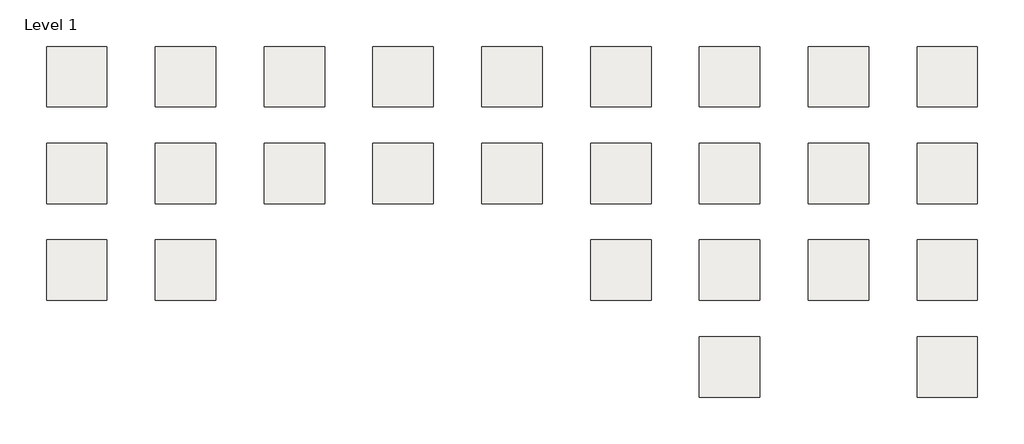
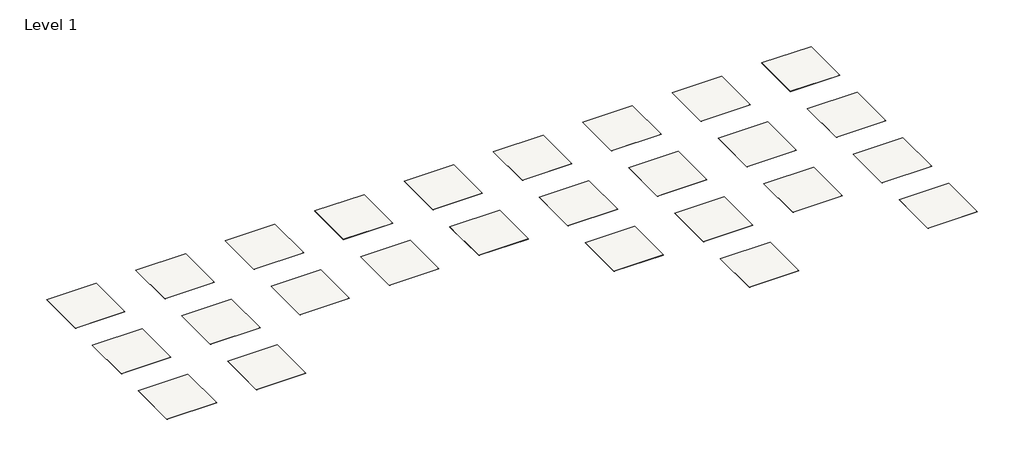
# One storey: 26 slabs.
"""IFC4 building model written with IfcOpenShell, lengths in millimetres."""

from ifc_helpers import new_model, si_unit, frame, origin, place, context, project, spatial, polyline, outline, extrude, element, save

model = new_model("IFC4")

# Units and contexts
model_context = context("Model", 3, world=origin())
ifc_project = project(units=[si_unit("LENGTHUNIT", "METRE", prefix="MILLI")], contexts=[model_context])

# Site, building, storey
site = spatial("IfcSite", under=ifc_project)
building = spatial("IfcBuilding", under=site)
storey = spatial("IfcBuildingStorey", under=building, Name="Level 1", Elevation=0.0)

# Slabs
placement = place(None, origin())
element("IfcSlab", 1, ObjectType="Armstrong_Sheet Vinyl_Abode_Loft_80802 vanilla", at=placement, inside=storey, context=model_context, shape_type="SweptSolid", body=[
    extrude(outline(polyline([(14894.0055838, 2884.7695431), (14894.0055838, 1360.7695431), (13370.0055838, 1360.7695431), (13370.0055838, 2884.7695431), (14894.0055838, 2884.7695431)])), frame((0.0, 0.0, -1.984375), z_axis=(0.0, 0.0, 1.0), x_axis=(1.0, 0.0, 0.0)), (0.0, 0.0, 1.0), 1.984375),
])
element("IfcSlab", 2, ObjectType="Armstrong_Sheet Vinyl_Abode_Loft_80803 latte", at=placement, inside=storey, context=model_context, shape_type="SweptSolid", body=[
    extrude(outline(polyline([(14894.0055838, 446.3695431), (14894.0055838, -1077.6304569), (13370.0055838, -1077.6304569), (13370.0055838, 446.3695431), (14894.0055838, 446.3695431)])), frame((0.0, 0.0, -1.984375), z_axis=(0.0, 0.0, 1.0), x_axis=(1.0, 0.0, 0.0)), (0.0, 0.0, 1.0), 1.984375),
])
element("IfcSlab", 3, ObjectType="Armstrong_Sheet Vinyl_Abode_Loft_80804 licorice", at=placement, inside=storey, context=model_context, shape_type="SweptSolid", body=[
    extrude(outline(polyline([(14894.0055838, -1992.0304569), (14894.0055838, -3516.0304569), (13370.0055838, -3516.0304569), (13370.0055838, -1992.0304569), (14894.0055838, -1992.0304569)])), frame((0.0, 0.0, -1.984375), z_axis=(0.0, 0.0, 1.0), x_axis=(1.0, 0.0, 0.0)), (0.0, 0.0, 1.0), 1.984375),
])
element("IfcSlab", 4, ObjectType="Armstrong_Sheet Vinyl_Abode_Saint Tropez Stone_80807 alabaster", at=placement, inside=storey, context=model_context, shape_type="SweptSolid", body=[
    extrude(outline(polyline([(17637.2055838, 2884.7695431), (17637.2055838, 1360.7695431), (16113.2055838, 1360.7695431), (16113.2055838, 2884.7695431), (17637.2055838, 2884.7695431)])), frame((0.0, 0.0, -1.984375), z_axis=(0.0, 0.0, 1.0), x_axis=(1.0, 0.0, 0.0)), (0.0, 0.0, 1.0), 1.984375),
])
element("IfcSlab", 5, ObjectType="Armstrong_Sheet Vinyl_Abode_Saint Tropez Stone_80808 crystalline", at=placement, inside=storey, context=model_context, shape_type="SweptSolid", body=[
    extrude(outline(polyline([(17637.2055838, 446.3695431), (17637.2055838, -1077.6304569), (16113.2055838, -1077.6304569), (16113.2055838, 446.3695431), (17637.2055838, 446.3695431)])), frame((0.0, 0.0, -1.984375), z_axis=(0.0, 0.0, 1.0), x_axis=(1.0, 0.0, 0.0)), (0.0, 0.0, 1.0), 1.984375),
])
element("IfcSlab", 6, ObjectType="Armstrong_Sheet Vinyl_Abode_Saint Tropez Stone_80809 sepia", at=placement, inside=storey, context=model_context, shape_type="SweptSolid", body=[
    extrude(outline(polyline([(17637.2055838, -1992.0304569), (17637.2055838, -3516.0304569), (16113.2055838, -3516.0304569), (16113.2055838, -1992.0304569), (17637.2055838, -1992.0304569)])), frame((0.0, 0.0, -1.984375), z_axis=(0.0, 0.0, 1.0), x_axis=(1.0, 0.0, 0.0)), (0.0, 0.0, 1.0), 1.984375),
])
element("IfcSlab", 7, ObjectType="Armstrong_Sheet Vinyl_Abode_Sanjani Slate_80816 smokey beige", at=placement, inside=storey, context=model_context, shape_type="SweptSolid", body=[
    extrude(outline(polyline([(20380.4055838, 2884.7695431), (20380.4055838, 1360.7695431), (18856.4055838, 1360.7695431), (18856.4055838, 2884.7695431), (20380.4055838, 2884.7695431)])), frame((0.0, 0.0, -1.984375), z_axis=(0.0, 0.0, 1.0), x_axis=(1.0, 0.0, 0.0)), (0.0, 0.0, 1.0), 1.984375),
])
element("IfcSlab", 8, ObjectType="Armstrong_Sheet Vinyl_Abode_Sanjani Slate_80817 topaz", at=placement, inside=storey, context=model_context, shape_type="SweptSolid", body=[
    extrude(outline(polyline([(20380.4055838, 446.3695431), (20380.4055838, -1077.6304569), (18856.4055838, -1077.6304569), (18856.4055838, 446.3695431), (20380.4055838, 446.3695431)])), frame((0.0, 0.0, -1.984375), z_axis=(0.0, 0.0, 1.0), x_axis=(1.0, 0.0, 0.0)), (0.0, 0.0, 1.0), 1.984375),
])
element("IfcSlab", 9, ObjectType="Armstrong_Sheet Vinyl_Abode_Fossil_80800 silica", at=placement, inside=storey, context=model_context, shape_type="SweptSolid", body=[
    extrude(outline(polyline([(23123.6055838, 2884.7695431), (23123.6055838, 1360.7695431), (21599.6055838, 1360.7695431), (21599.6055838, 2884.7695431), (23123.6055838, 2884.7695431)])), frame((0.0, 0.0, -1.984375), z_axis=(0.0, 0.0, 1.0), x_axis=(1.0, 0.0, 0.0)), (0.0, 0.0, 1.0), 1.984375),
])
element("IfcSlab", 10, ObjectType="Armstrong_Sheet Vinyl_Abode_Fossil_80801 amber", at=placement, inside=storey, context=model_context, shape_type="SweptSolid", body=[
    extrude(outline(polyline([(23123.6055838, 446.3695431), (23123.6055838, -1077.6304569), (21599.6055838, -1077.6304569), (21599.6055838, 446.3695431), (23123.6055838, 446.3695431)])), frame((0.0, 0.0, -1.984375), z_axis=(0.0, 0.0, 1.0), x_axis=(1.0, 0.0, 0.0)), (0.0, 0.0, 1.0), 1.984375),
])
element("IfcSlab", 11, ObjectType="Armstrong_Sheet Vinyl_Abode_Maari Stonel_80806 sand", at=placement, inside=storey, context=model_context, shape_type="SweptSolid", body=[
    extrude(outline(polyline([(25866.8055838, 2884.7695431), (25866.8055838, 1360.7695431), (24342.8055838, 1360.7695431), (24342.8055838, 2884.7695431), (25866.8055838, 2884.7695431)])), frame((0.0, 0.0, -1.984375), z_axis=(0.0, 0.0, 1.0), x_axis=(1.0, 0.0, 0.0)), (0.0, 0.0, 1.0), 1.984375),
])
element("IfcSlab", 12, ObjectType="Armstrong_Sheet Vinyl_Abode_Maari Stonel_80805 moss", at=placement, inside=storey, context=model_context, shape_type="SweptSolid", body=[
    extrude(outline(polyline([(25866.8055838, 446.3695431), (25866.8055838, -1077.6304569), (24342.8055838, -1077.6304569), (24342.8055838, 446.3695431), (25866.8055838, 446.3695431)])), frame((0.0, 0.0, -1.984375), z_axis=(0.0, 0.0, 1.0), x_axis=(1.0, 0.0, 0.0)), (0.0, 0.0, 1.0), 1.984375),
])
element("IfcSlab", 13, ObjectType="Armstrong_Sheet Vinyl_Abode_Concrete & Steel_80810 copper", at=placement, inside=storey, context=model_context, shape_type="SweptSolid", body=[
    extrude(outline(polyline([(28610.0055838, 2884.7695431), (28610.0055838, 1360.7695431), (27086.0055838, 1360.7695431), (27086.0055838, 2884.7695431), (28610.0055838, 2884.7695431)])), frame((0.0, 0.0, -1.984375), z_axis=(0.0, 0.0, 1.0), x_axis=(1.0, 0.0, 0.0)), (0.0, 0.0, 1.0), 1.984375),
])
element("IfcSlab", 14, ObjectType="Armstrong_Sheet Vinyl_Abode_Concrete & Steel_80811 gunmetal", at=placement, inside=storey, context=model_context, shape_type="SweptSolid", body=[
    extrude(outline(polyline([(28610.0055838, 446.3695431), (28610.0055838, -1077.6304569), (27086.0055838, -1077.6304569), (27086.0055838, 446.3695431), (28610.0055838, 446.3695431)])), frame((0.0, 0.0, -1.984375), z_axis=(0.0, 0.0, 1.0), x_axis=(1.0, 0.0, 0.0)), (0.0, 0.0, 1.0), 1.984375),
])
element("IfcSlab", 15, ObjectType="Armstrong_Sheet Vinyl_Abode_Concrete & Steel_80812 bronze", at=placement, inside=storey, context=model_context, shape_type="SweptSolid", body=[
    extrude(outline(polyline([(28610.0055838, -1992.0304569), (28610.0055838, -3516.0304569), (27086.0055838, -3516.0304569), (27086.0055838, -1992.0304569), (28610.0055838, -1992.0304569)])), frame((0.0, 0.0, -1.984375), z_axis=(0.0, 0.0, 1.0), x_axis=(1.0, 0.0, 0.0)), (0.0, 0.0, 1.0), 1.984375),
])
element("IfcSlab", 16, ObjectType="Armstrong_Sheet Vinyl_Abode_Rough Linen_80822 almond gray", at=placement, inside=storey, context=model_context, shape_type="SweptSolid", body=[
    extrude(outline(polyline([(31353.2055838, 2884.7695431), (31353.2055838, 1360.7695431), (29829.2055838, 1360.7695431), (29829.2055838, 2884.7695431), (31353.2055838, 2884.7695431)])), frame((0.0, 0.0, -1.984375), z_axis=(0.0, 0.0, 1.0), x_axis=(1.0, 0.0, 0.0)), (0.0, 0.0, 1.0), 1.984375),
])
element("IfcSlab", 17, ObjectType="Armstrong_Sheet Vinyl_Abode_Rough Linen_80823 dusty aqua", at=placement, inside=storey, context=model_context, shape_type="SweptSolid", body=[
    extrude(outline(polyline([(31353.2055838, 446.3695431), (31353.2055838, -1077.6304569), (29829.2055838, -1077.6304569), (29829.2055838, 446.3695431), (31353.2055838, 446.3695431)])), frame((0.0, 0.0, -1.984375), z_axis=(0.0, 0.0, 1.0), x_axis=(1.0, 0.0, 0.0)), (0.0, 0.0, 1.0), 1.984375),
])
element("IfcSlab", 18, ObjectType="Armstrong_Sheet Vinyl_Abode_Rough Linen_80824 braised brown", at=placement, inside=storey, context=model_context, shape_type="SweptSolid", body=[
    extrude(outline(polyline([(31353.2055838, -1992.0304569), (31353.2055838, -3516.0304569), (29829.2055838, -3516.0304569), (29829.2055838, -1992.0304569), (31353.2055838, -1992.0304569)])), frame((0.0, 0.0, -1.984375), z_axis=(0.0, 0.0, 1.0), x_axis=(1.0, 0.0, 0.0)), (0.0, 0.0, 1.0), 1.984375),
])
element("IfcSlab", 19, ObjectType="Armstrong_Sheet Vinyl_Abode_Rough Linen_80825 smokey granite", at=placement, inside=storey, context=model_context, shape_type="SweptSolid", body=[
    extrude(outline(polyline([(31353.2055838, -4430.4304569), (31353.2055838, -5954.4304569), (29829.2055838, -5954.4304569), (29829.2055838, -4430.4304569), (31353.2055838, -4430.4304569)])), frame((0.0, 0.0, -1.984375), z_axis=(0.0, 0.0, 1.0), x_axis=(1.0, 0.0, 0.0)), (0.0, 0.0, 1.0), 1.984375),
])
element("IfcSlab", 20, ObjectType="Armstrong_Sheet Vinyl_Abode_Rustic Timber_80813 flaxen", at=placement, inside=storey, context=model_context, shape_type="SweptSolid", body=[
    extrude(outline(polyline([(34096.4055838, 2884.7695431), (34096.4055838, 1360.7695431), (32572.4055838, 1360.7695431), (32572.4055838, 2884.7695431), (34096.4055838, 2884.7695431)])), frame((0.0, 0.0, -1.984375), z_axis=(0.0, 0.0, 1.0), x_axis=(1.0, 0.0, 0.0)), (0.0, 0.0, 1.0), 1.984375),
])
element("IfcSlab", 21, ObjectType="Armstrong_Sheet Vinyl_Abode_Rustic Timber_80814 ruddy", at=placement, inside=storey, context=model_context, shape_type="SweptSolid", body=[
    extrude(outline(polyline([(34096.4055838, 446.3695431), (34096.4055838, -1077.6304569), (32572.4055838, -1077.6304569), (32572.4055838, 446.3695431), (34096.4055838, 446.3695431)])), frame((0.0, 0.0, -1.984375), z_axis=(0.0, 0.0, 1.0), x_axis=(1.0, 0.0, 0.0)), (0.0, 0.0, 1.0), 1.984375),
])
element("IfcSlab", 22, ObjectType="Armstrong_Sheet Vinyl_Abode_Rustic Timber_80815 sienna", at=placement, inside=storey, context=model_context, shape_type="SweptSolid", body=[
    extrude(outline(polyline([(34096.4055838, -1992.0304569), (34096.4055838, -3516.0304569), (32572.4055838, -3516.0304569), (32572.4055838, -1992.0304569), (34096.4055838, -1992.0304569)])), frame((0.0, 0.0, -1.984375), z_axis=(0.0, 0.0, 1.0), x_axis=(1.0, 0.0, 0.0)), (0.0, 0.0, 1.0), 1.984375),
])
element("IfcSlab", 23, ObjectType="Armstrong_Sheet Vinyl_Abode_Echo Lake_80818 spice", at=placement, inside=storey, context=model_context, shape_type="SweptSolid", body=[
    extrude(outline(polyline([(36839.6055838, 2884.7695431), (36839.6055838, 1360.7695431), (35315.6055838, 1360.7695431), (35315.6055838, 2884.7695431), (36839.6055838, 2884.7695431)])), frame((0.0, 0.0, -1.984375), z_axis=(0.0, 0.0, 1.0), x_axis=(1.0, 0.0, 0.0)), (0.0, 0.0, 1.0), 1.984375),
])
element("IfcSlab", 24, ObjectType="Armstrong_Sheet Vinyl_Abode_Echo Lake_80819 natural", at=placement, inside=storey, context=model_context, shape_type="SweptSolid", body=[
    extrude(outline(polyline([(36839.6055838, 446.3695431), (36839.6055838, -1077.6304569), (35315.6055838, -1077.6304569), (35315.6055838, 446.3695431), (36839.6055838, 446.3695431)])), frame((0.0, 0.0, -1.984375), z_axis=(0.0, 0.0, 1.0), x_axis=(1.0, 0.0, 0.0)), (0.0, 0.0, 1.0), 1.984375),
])
element("IfcSlab", 25, ObjectType="Armstrong_Sheet Vinyl_Abode_Echo Lake_80820 umber", at=placement, inside=storey, context=model_context, shape_type="SweptSolid", body=[
    extrude(outline(polyline([(36839.6055838, -1992.0304569), (36839.6055838, -3516.0304569), (35315.6055838, -3516.0304569), (35315.6055838, -1992.0304569), (36839.6055838, -1992.0304569)])), frame((0.0, 0.0, -1.984375), z_axis=(0.0, 0.0, 1.0), x_axis=(1.0, 0.0, 0.0)), (0.0, 0.0, 1.0), 1.984375),
])
element("IfcSlab", 26, ObjectType="Armstrong_Sheet Vinyl_Abode_Echo Lake_80821 anthracite", at=placement, inside=storey, context=model_context, shape_type="SweptSolid", body=[
    extrude(outline(polyline([(36839.6055838, -4430.4304569), (36839.6055838, -5954.4304569), (35315.6055838, -5954.4304569), (35315.6055838, -4430.4304569), (36839.6055838, -4430.4304569)])), frame((0.0, 0.0, -1.984375), z_axis=(0.0, 0.0, 1.0), x_axis=(1.0, 0.0, 0.0)), (0.0, 0.0, 1.0), 1.984375),
])

save(model, "model.ifc")
